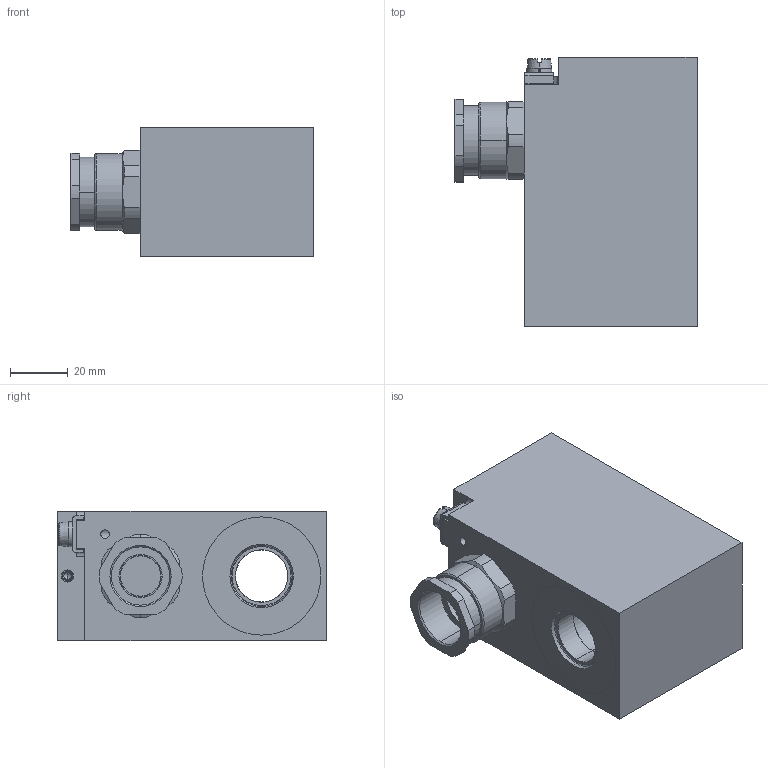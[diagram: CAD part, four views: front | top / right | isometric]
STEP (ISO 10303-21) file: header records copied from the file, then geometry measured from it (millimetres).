
FILE_DESCRIPTION (( 'STEP AP214' ), '1' );
FILE_NAME ('MKY45_18x60.STEP', '2014-07-14T11:58:13', ( '' ), ( '' ), 'SwSTEP 2.0', 'SolidWorks 2014', '' );
FILE_SCHEMA (( 'AUTOMOTIVE_DESIGN' ));
Length unit declared in the file: millimetre
Products named in the file (2): MKY45_18x60
Bounding box: 83.95 x 93.3 x 45 mm (x, y, z)
Volume: 242829 mm3; surface area: 52744.6 mm2
Topology: 12 solids, 12 shells, 305 faces, 726 edges, 464 vertices
Faces by surface type: plane 136, cylinder 101, cone 46, torus 12, bspline 10
Entity records: 12828 total; most frequent: CARTESIAN_POINT 2107, DIRECTION 1587, ORIENTED_EDGE 1432, EDGE_CURVE 716, AXIS2_PLACEMENT_3D 619, VERTEX_POINT 462, EDGE_LOOP 352, VECTOR 349
